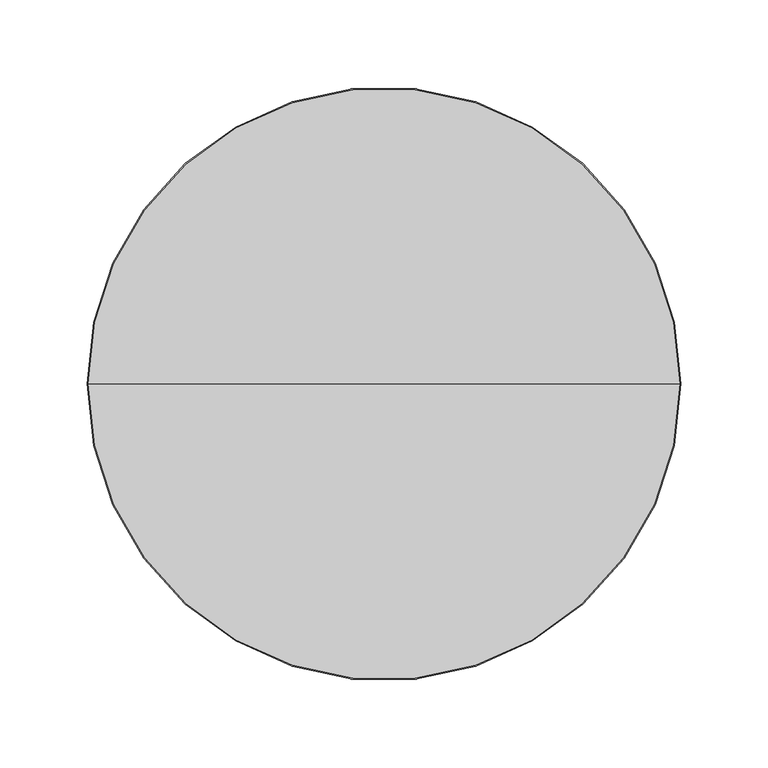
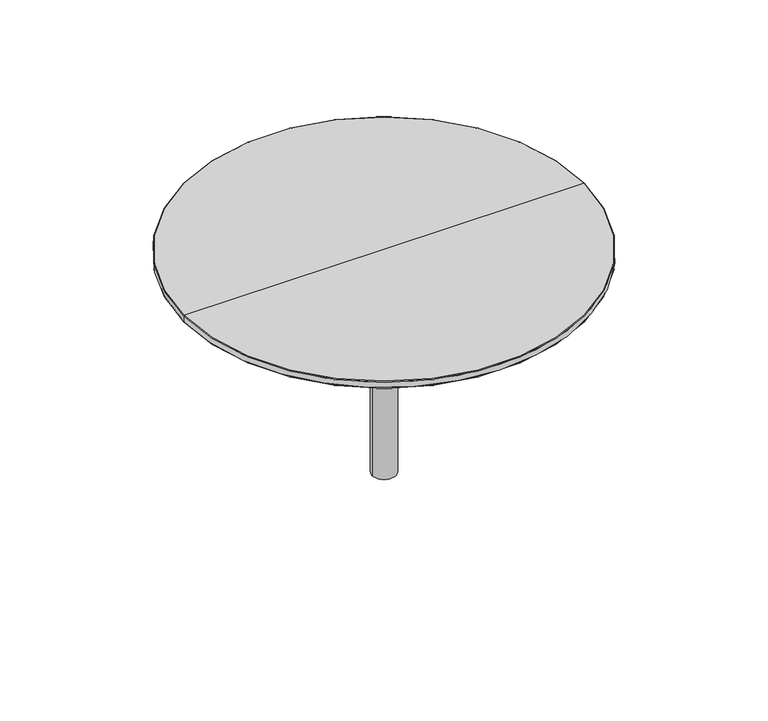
"""IFC4 building model written with IfcOpenShell, lengths in millimetres: furniture geometry, Couchette_1280 : Couchette_1280."""

import ifcopenshell
import ifcopenshell.guid

model = None  # the IFC model being written
_history = None  # IfcOwnerHistory: only IFC2X3 demands one
_inside = {}  # id of a spatial element -> (the spatial element, [elements in it])
_under = {}  # id of a project, library or spatial element -> (it, [spatial elements below it])
_declared = {}  # id of a project -> (the project, [libraries it declares])
_typed = {}  # id of a type object -> (the type object, [elements of that type])
_made_of = {}  # id of a material, layer set ... -> (it, [elements and type objects made of it])


def new_model(schema):
    """Start an empty IFC model of exactly this schema.

    Asked for "IFC4X3", IfcOpenShell would pick the latest addendum, in which some entities
    have other attributes; the version numbers below select the first issue.
    IFC2X3 requires an IfcOwnerHistory on every rooted entity: one is made here for all.
    """
    global model, _history
    if schema == "IFC4X3":
        model = ifcopenshell.file(schema_version=(4, 3, 0, 0))
    else:
        model = ifcopenshell.file(schema=schema)
    _inside.clear()
    _under.clear()
    _declared.clear()
    _typed.clear()
    _made_of.clear()
    _history = None
    if model.schema == "IFC2X3":
        org = make("IfcOrganization", Name="unknown")
        user = make(
            "IfcPersonAndOrganization",
            ThePerson=make("IfcPerson", FamilyName="unknown"),
            TheOrganization=org,
        )
        app = make(
            "IfcApplication",
            ApplicationDeveloper=org,
            Version="unknown",
            ApplicationFullName="unknown",
            ApplicationIdentifier="unknown",
        )
        _history = make(
            "IfcOwnerHistory",
            OwningUser=user,
            OwningApplication=app,
            ChangeAction="ADDED",
            CreationDate=0,
        )
    return model


def make(cls, **values):
    """One entity of the class cls with the attributes given. An attribute that is None is left unset."""
    return model.create_entity(
        cls, **{name: value for name, value in values.items() if value is not None}
    )


def rooted(cls, **values):
    """An entity with a GlobalId (a new one), such as an element, a storey or a relation."""
    return make(cls, GlobalId=ifcopenshell.guid.new(), OwnerHistory=_history, **values)


def si_unit(unit_type, name, prefix=None):
    """IfcSIUnit, for example si_unit("LENGTHUNIT", "METRE", prefix="MILLI")."""
    return make("IfcSIUnit", UnitType=unit_type, Prefix=prefix, Name=name)


def assignment(units):
    """IfcUnitAssignment: the units of a project."""
    return None if units is None else make("IfcUnitAssignment", Units=units)


def point(xyz):
    """IfcCartesianPoint."""
    return None if xyz is None else make("IfcCartesianPoint", Coordinates=xyz)


def direction(xyz):
    """IfcDirection."""
    return None if xyz is None else make("IfcDirection", DirectionRatios=xyz)


def frame(location, z_axis=None, x_axis=None):
    """IfcAxis2Placement3D, a coordinate frame: its origin and axes. An axis left out is left unset."""
    return make(
        "IfcAxis2Placement3D",
        Location=point(location),
        Axis=direction(z_axis),
        RefDirection=direction(x_axis),
    )


def frame_2d(location, x_axis=None):
    """IfcAxis2Placement2D, a coordinate frame in the plane: its origin and x axis."""
    return make(
        "IfcAxis2Placement2D", Location=point(location), RefDirection=direction(x_axis)
    )


def origin():
    """The frame at (0, 0, 0) with its axes left unset."""
    return frame((0.0, 0.0, 0.0))


def origin_with_axes():
    """The frame at (0, 0, 0) with the z axis (0, 0, 1) and the x axis (1, 0, 0) written out."""
    return frame((0.0, 0.0, 0.0), z_axis=(0.0, 0.0, 1.0), x_axis=(1.0, 0.0, 0.0))


def origin_2d():
    """The frame at (0, 0) in the plane with its x axis left unset."""
    return frame_2d((0.0, 0.0))


def place(relative_to, where):
    """IfcLocalPlacement: puts the frame where relative to a parent placement (None: the world)."""
    return make(
        "IfcLocalPlacement", PlacementRelTo=relative_to, RelativePlacement=where
    )


def context(
    kind, dimensions, precision=None, world=None, true_north=None, identifier=None
):
    """IfcGeometricRepresentationContext, for example the 3D "Model" context."""
    return make(
        "IfcGeometricRepresentationContext",
        ContextIdentifier=identifier,
        ContextType=kind,
        CoordinateSpaceDimension=dimensions,
        Precision=precision,
        WorldCoordinateSystem=world,
        TrueNorth=true_north,
    )


def project(units=None, contexts=None):
    """IfcProject with its units and contexts."""
    return rooted(
        "IfcProject",
        Name="project",
        RepresentationContexts=contexts,
        UnitsInContext=assignment(units),
    )


def spatial(cls, under=None, at=None, **own):
    """A site, building, storey or space (cls), placed at a placement, below another one or the project."""
    s = rooted(cls, ObjectPlacement=at, **own)
    if under is not None:
        _under.setdefault(under.id(), (under, []))[1].append(s)
    return s


def polyline(points):
    """IfcPolyline through the points."""
    return make("IfcPolyline", Points=[point(p) for p in points])


def circle_curve(where, radius):
    """IfcCircle in the frame where."""
    return make("IfcCircle", Position=where, Radius=radius)


def ellipse_curve(where, semi_axis1, semi_axis2):
    """IfcEllipse in the frame where."""
    return make(
        "IfcEllipse", Position=where, SemiAxis1=semi_axis1, SemiAxis2=semi_axis2
    )


def trimmed(basis, trim1, trim2, sense, master):
    """IfcTrimmedCurve: the piece of a basis curve between two trims."""
    return make(
        "IfcTrimmedCurve",
        BasisCurve=basis,
        Trim1=trim1,
        Trim2=trim2,
        SenseAgreement=sense,
        MasterRepresentation=master,
    )


def segment(curve, same_sense, transition):
    """IfcCompositeCurveSegment."""
    return make(
        "IfcCompositeCurveSegment",
        Transition=transition,
        SameSense=same_sense,
        ParentCurve=curve,
    )


def composite_curve(segments, self_intersect=None):
    """IfcCompositeCurve: segments joined end to end."""
    return make("IfcCompositeCurve", Segments=segments, SelfIntersect=self_intersect)


def outline(outer, holes=None, kind="AREA"):
    """IfcArbitraryClosedProfileDef: a profile drawn as a closed curve; with holes, ...WithVoids."""
    if holes is None:
        return make("IfcArbitraryClosedProfileDef", ProfileType=kind, OuterCurve=outer)
    return make(
        "IfcArbitraryProfileDefWithVoids",
        ProfileType=kind,
        OuterCurve=outer,
        InnerCurves=holes,
    )


def extrude(swept, where, along, depth):
    """IfcExtrudedAreaSolid: the profile swept, set in the frame where, extruded along a direction by depth."""
    return make(
        "IfcExtrudedAreaSolid",
        SweptArea=swept,
        Position=where,
        ExtrudedDirection=direction(along),
        Depth=depth,
    )


def shape(context_of_items, identifier, shape_type, items):
    """IfcShapeRepresentation: the items that make up one representation, for example the "Body"."""
    return make(
        "IfcShapeRepresentation",
        ContextOfItems=context_of_items,
        RepresentationIdentifier=identifier,
        RepresentationType=shape_type,
        Items=items,
    )


def source(mapping_origin, context_of_items, identifier, shape_type, items):
    """IfcRepresentationMap: a shape defined once, which mapped items show again and again."""
    return make(
        "IfcRepresentationMap",
        MappingOrigin=mapping_origin,
        MappedRepresentation=shape(context_of_items, identifier, shape_type, items),
    )


def transform(
    local_origin,
    x_axis=None,
    y_axis=None,
    z_axis=None,
    scale=None,
    scale2=None,
    scale3=None,
    uniform=True,
):
    """IfcCartesianTransformationOperator3D, or its non-uniform kind. x_axis, y_axis, z_axis: its Axis1, 2, 3."""
    if uniform:
        return make(
            "IfcCartesianTransformationOperator3D",
            Axis1=direction(x_axis),
            Axis2=direction(y_axis),
            LocalOrigin=point(local_origin),
            Scale=scale,
            Axis3=direction(z_axis),
        )
    return make(
        "IfcCartesianTransformationOperator3DnonUniform",
        Axis1=direction(x_axis),
        Axis2=direction(y_axis),
        LocalOrigin=point(local_origin),
        Scale=scale,
        Axis3=direction(z_axis),
        Scale2=scale2,
        Scale3=scale3,
    )


def mapped(mapping_source, mapping_target):
    """IfcMappedItem: shows the shape of a source again, moved by a transform."""
    return make(
        "IfcMappedItem", MappingSource=mapping_source, MappingTarget=mapping_target
    )


def made_of(thing, what):
    """Note that an element or type object is made of a material, layer set ...; save() writes the relation."""
    if what is not None:
        _made_of.setdefault(what.id(), (what, []))[1].append(thing)
    return thing


def element(
    cls,
    number,
    at=None,
    inside=None,
    cuts=None,
    type_object=None,
    material=None,
    context=None,
    identifier="Body",
    shape_type=None,
    held_by="IfcProductDefinitionShape",
    body=None,
    shapes=None,
    **own,
):
    """One element of the class cls, such as IfcWall. Its Tag is "e" and its number.

    at: its placement. inside: the storey or other place that contains it. cuts: it is an
    opening in that element (IfcRelVoidsElement). A single representation is given by context,
    identifier, shape_type and body (its items); several are given by shapes. held_by: the class
    of the entity that holds the representations. save() writes the other relations.
    """
    e = rooted(cls, Tag="e%d" % number, ObjectPlacement=at, **own)
    if body is not None:
        shapes = [shape(context, identifier, shape_type, body)]
    if shapes is not None:
        e.Representation = make(held_by, Representations=shapes)
    if inside is not None:
        _inside.setdefault(inside.id(), (inside, []))[1].append(e)
    if cuts is not None:
        rooted(
            "IfcRelVoidsElement", RelatingBuildingElement=cuts, RelatedOpeningElement=e
        )
    if type_object is not None:
        _typed.setdefault(type_object.id(), (type_object, []))[1].append(e)
    return made_of(e, material)


def aggregate(whole, parts):
    """IfcRelAggregates: a whole, such as a stair, and the parts it consists of."""
    return rooted("IfcRelAggregates", RelatingObject=whole, RelatedObjects=parts)


def save(model, path):
    """Write the relations noted so far, then the file.

    IfcRelAggregates (storeys below a building ...), IfcRelContainedInSpatialStructure (elements
    in a storey), IfcRelDefinesByType, IfcRelAssociatesMaterial and IfcRelDeclares: one each for
    every whole, place, type object, material and project.
    """
    for whole, parts in _under.values():
        aggregate(whole, parts)
    for where, things in _inside.values():
        rooted(
            "IfcRelContainedInSpatialStructure",
            RelatedElements=things,
            RelatingStructure=where,
        )
    for kind, things in _typed.values():
        rooted("IfcRelDefinesByType", RelatedObjects=things, RelatingType=kind)
    for what, things in _made_of.values():
        rooted("IfcRelAssociatesMaterial", RelatedObjects=things, RelatingMaterial=what)
    for by, libraries in _declared.values():
        rooted("IfcRelDeclares", RelatingContext=by, RelatedDefinitions=libraries)
    model.write(path)


def plane_surface(at):
    """IfcPlane: the flat surface through the origin of the frame at, square to its z axis."""
    return make("IfcPlane", Position=at)


def cylinder_surface(at, radius):
    """IfcCylindricalSurface: all points at the distance radius from the z axis of the frame at."""
    return make("IfcCylindricalSurface", Position=at, Radius=radius)


def revolved_surface(curve, axis_point, axis_direction):
    """IfcSurfaceOfRevolution: the curve turned about the line through axis_point along axis_direction."""
    return make(
        "IfcSurfaceOfRevolution",
        SweptCurve=make("IfcArbitraryOpenProfileDef", ProfileType="CURVE", Curve=curve),
        AxisPosition=make("IfcAxis1Placement", Location=point(axis_point), Axis=direction(axis_direction)),
    )


def advanced_brep(points, edges, surfaces, faces):
    """IfcAdvancedBrep: a solid bounded by faces that lie on surfaces and meet in shared edges.

    An edge is (start, end): straight between two places in points (the first is 0);
    or (start, end, curve); or (start, end, curve, False) where it runs against its curve.
    A face is (place in surfaces, loops), or (place, loops, False) where it looks against
    its surface's normal. A loop lists edges by number (the first is 1), with a minus sign
    where the edge is run from its end to its start. The first loop is the outer one.
    """
    corners = [point(p) for p in points]
    vertices = [make("IfcVertexPoint", VertexGeometry=c) for c in corners]
    made = []
    for start, end, *more in edges:
        made.append(
            make(
                "IfcEdgeCurve",
                EdgeStart=vertices[start],
                EdgeEnd=vertices[end],
                EdgeGeometry=more[0] if more else make("IfcPolyline", Points=[corners[start], corners[end]]),
                SameSense=more[1] if len(more) > 1 else True,
            )
        )
    hull = []
    for where, loops, *sense in faces:
        bounds = []
        for j, loop in enumerate(loops):
            ring = [make("IfcOrientedEdge", EdgeElement=made[abs(k) - 1], Orientation=k > 0) for k in loop]
            bounds.append(
                make(
                    "IfcFaceOuterBound" if j == 0 else "IfcFaceBound",
                    Bound=make("IfcEdgeLoop", EdgeList=ring),
                    Orientation=True,
                )
            )
        hull.append(make("IfcAdvancedFace", Bounds=bounds, FaceSurface=surfaces[where], SameSense=sense[0] if sense else True))
    return make("IfcAdvancedBrep", Outer=make("IfcClosedShell", CfsFaces=hull))


def furniture_37731700(model_context):
    return source(origin(), model_context, "Body", "SolidModel", [
        advanced_brep(
        [(0.0, 0.0, 169.999978), (-126.0087512, 0.0, 169.999978), (126.0087512, 0.0, 169.999978), (169.44, 0.0, 200.0), (-169.44, 0.0, 200.0), (0.0, 0.0, 200.0), (170.0, 0.0, 199.44), (-170.0, 0.0, 199.44), (170.0, 0.0, 194.6325474), (-170.0, 0.0, 194.6325474), (169.4858131, 0.0, 193.701514), (-169.4858131, 0.0, 193.701514), (150.4652548, 0.0, 181.7336369), (-150.4652548, 0.0, 181.7336369), (149.7336209, 0.0, 181.3152498), (-149.7336209, 0.0, 181.3152498), (129.4774075, 0.0, 170.8387349), (-129.4774075, 0.0, 170.8387349)],
        [
            (0, 1),
            (1, 2, circle_curve(frame((0.0, 0.0, 169.999978), z_axis=(0.0, 0.0, -1.0), x_axis=(-1.0, 0.0, 0.0)), 126.0087512)),
            (2, 0),
            (2, 1, circle_curve(frame((0.0, 0.0, 169.999978), z_axis=(0.0, 0.0, -1.0), x_axis=(-1.0, 0.0, 0.0)), 126.0087512)),
            (3, 4, circle_curve(frame((0.0, 0.0, 200.0), z_axis=(0.0, 0.0, 1.0), x_axis=(-1.0, 0.0, 0.0)), 169.44)),
            (4, 5),
            (5, 3),
            (4, 3, circle_curve(frame((0.0, 0.0, 200.0), z_axis=(0.0, 0.0, 1.0), x_axis=(-1.0, 0.0, 0.0)), 169.44)),
            (6, 7, circle_curve(frame((0.0, 0.0, 199.44), z_axis=(0.0, 0.0, 1.0), x_axis=(-1.0, 0.0, 0.0)), 170.0)),
            (7, 4, circle_curve(frame((-169.44, 0.0, 199.44), z_axis=(0.0, 1.0, 0.0), x_axis=(1.0, 0.0, 0.0)), 0.56)),
            (3, 6, circle_curve(frame((169.44, 0.0, 199.44), z_axis=(0.0, 1.0, 0.0), x_axis=(-1.0, 0.0, 0.0)), 0.56)),
            (7, 6, circle_curve(frame((0.0, 0.0, 199.44), z_axis=(0.0, 0.0, 1.0), x_axis=(-1.0, 0.0, 0.0)), 170.0)),
            (8, 9, circle_curve(frame((0.0, 0.0, 194.6325474), z_axis=(0.0, 0.0, 1.0), x_axis=(-1.0, 0.0, 0.0)), 170.0)),
            (9, 7),
            (6, 8),
            (9, 8, circle_curve(frame((0.0, 0.0, 194.6325474), z_axis=(0.0, 0.0, 1.0), x_axis=(-1.0, 0.0, 0.0)), 170.0)),
            (10, 11, circle_curve(frame((0.0, 0.0, 193.701514), z_axis=(0.0, 0.0, 1.0), x_axis=(-1.0, 0.0, 0.0)), 169.4858131)),
            (11, 9, circle_curve(frame((-168.9, 0.0, 194.6325474), z_axis=(0.0, 1.0, 0.0), x_axis=(1.0, 0.0, 0.0)), 1.1)),
            (8, 10, circle_curve(frame((168.9, 0.0, 194.6325474), z_axis=(0.0, 1.0, 0.0), x_axis=(-1.0, 0.0, 0.0)), 1.1)),
            (11, 10, circle_curve(frame((0.0, 0.0, 193.701514), z_axis=(0.0, 0.0, 1.0), x_axis=(-1.0, 0.0, 0.0)), 169.4858131)),
            (12, 13, circle_curve(frame((0.0, 0.0, 181.7336369), z_axis=(0.0, 0.0, 1.0), x_axis=(-1.0, 0.0, 0.0)), 150.4652548)),
            (13, 11),
            (10, 12),
            (13, 12, circle_curve(frame((0.0, 0.0, 181.7336369), z_axis=(0.0, 0.0, 1.0), x_axis=(-1.0, 0.0, 0.0)), 150.4652548)),
            (14, 15, circle_curve(frame((0.0, 0.0, 181.3152498), z_axis=(0.0, 0.0, 1.0), x_axis=(-1.0, 0.0, 0.0)), 149.7336209)),
            (15, 13, circle_curve(frame((-145.1396812, 0.0, 190.197576), z_axis=(0.0, 1.0, 0.0), x_axis=(1.0, 0.0, 0.0)), 10.0)),
            (12, 14, circle_curve(frame((145.1396812, 0.0, 190.197576), z_axis=(0.0, 1.0, 0.0), x_axis=(-1.0, 0.0, 0.0)), 10.0)),
            (15, 14, circle_curve(frame((0.0, 0.0, 181.3152498), z_axis=(0.0, 0.0, 1.0), x_axis=(-1.0, 0.0, 0.0)), 149.7336209)),
            (16, 17, circle_curve(frame((0.0, 0.0, 170.8387349), z_axis=(0.0, 0.0, 1.0), x_axis=(-1.0, 0.0, 0.0)), 129.4774075)),
            (17, 15),
            (14, 16),
            (17, 16, circle_curve(frame((0.0, 0.0, 170.8387349), z_axis=(0.0, 0.0, 1.0), x_axis=(-1.0, 0.0, 0.0)), 129.4774075)),
            (1, 17, circle_curve(frame((-126.0297702, 0.0, 177.5046995), z_axis=(0.0, 1.0, 0.0), x_axis=(1.0, 0.0, 0.0)), 7.504751)),
            (16, 2, circle_curve(frame((126.0297702, 0.0, 177.5046995), z_axis=(0.0, 1.0, 0.0), x_axis=(-1.0, 0.0, 0.0)), 7.504751)),
        ],
        [
            plane_surface(frame((0.0, 0.0, 169.999978), z_axis=(0.0, 0.0, -1.0), x_axis=(-1.0, 0.0, 0.0))),
            plane_surface(frame((0.0, 0.0, 200.0), z_axis=(0.0, 0.0, 1.0), x_axis=(-1.0, 0.0, 0.0))),
            revolved_surface(trimmed(ellipse_curve(frame((-169.44, 0.0, 199.44), z_axis=(0.0, -1.0, 0.0), x_axis=(1.0, 0.0, 0.0)), 0.56, 0.56), [point((-169.44, 0.0, 200.0))], [point((-170.0, 0.0, 199.44))], True, "CARTESIAN"), (0.0, 0.0, 169.999978), (0.0, 0.0, -1.0)),
            cylinder_surface(frame((0.0, 0.0, 169.999978), z_axis=(0.0, 0.0, -1.0), x_axis=(-1.0, 0.0, 0.0)), 170.0),
            revolved_surface(trimmed(ellipse_curve(frame((-168.9, 0.0, 194.6325474), z_axis=(0.0, -1.0, 0.0), x_axis=(1.0, 0.0, 0.0)), 1.1, 1.1), [point((-170.0, 0.0, 194.6325474))], [point((-169.4858131, 0.0, 193.701514))], True, "CARTESIAN"), (0.0, 0.0, 169.999978), (0.0, 0.0, -1.0)),
            revolved_surface(polyline([(-169.4858131, 0.0, 193.701514), (-150.4652548, 0.0, 181.7336369)]), (0.0, 0.0, 169.999978), (0.0, 0.0, -1.0)),
            revolved_surface(trimmed(ellipse_curve(frame((-145.1396812, 0.0, 190.197576), z_axis=(0.0, -1.0, 0.0), x_axis=(1.0, 0.0, 0.0)), 10.0, 10.0), [point((-150.4652548, 0.0, 181.7336369))], [point((-149.7336209, 0.0, 181.3152498))], True, "CARTESIAN"), (0.0, 0.0, 169.999978), (0.0, 0.0, -1.0)),
            revolved_surface(polyline([(-149.7336209, 0.0, 181.3152498), (-129.4774075, 0.0, 170.8387349)]), (0.0, 0.0, 169.999978), (0.0, 0.0, -1.0)),
            revolved_surface(trimmed(ellipse_curve(frame((-126.0297702, 0.0, 177.5046995), z_axis=(0.0, -1.0, 0.0), x_axis=(1.0, 0.0, 0.0)), 7.504751, 7.504751), [point((-129.4774075, 0.0, 170.8387349))], [point((-126.0087512, 0.0, 169.999978))], True, "CARTESIAN"), (0.0, 0.0, 169.999978), (0.0, 0.0, -1.0)),
        ],
        [
            (0, [[1, 2, 3]]),
            (0, [[-3, 4, -1]]),
            (1, [[5, 6, 7]]),
            (1, [[8, -7, -6]]),
            (2, [[9, 10, -5, 11]]),
            (2, [[12, -11, -8, -10]]),
            (3, [[13, 14, -9, 15]]),
            (3, [[16, -15, -12, -14]]),
            (4, [[17, 18, -13, 19]]),
            (4, [[20, -19, -16, -18]]),
            (5, [[21, 22, -17, 23]]),
            (5, [[24, -23, -20, -22]]),
            (6, [[25, 26, -21, 27]]),
            (6, [[28, -27, -24, -26]]),
            (7, [[29, 30, -25, 31]]),
            (7, [[32, -31, -28, -30]]),
            (8, [[-2, 33, -29, 34]]),
            (8, [[-4, -34, -32, -33]]),
        ],
    ),
        extrude(outline(composite_curve([segment(trimmed(circle_curve(origin_2d(), 10.0), [point((10.0, 0.0))], [point((-10.0, 0.0))], False, "CARTESIAN"), True, "CONTINUOUS"), segment(trimmed(circle_curve(origin_2d(), 10.0), [point((-10.0, 0.0))], [point((10.0, 0.0))], False, "CARTESIAN"), True, "CONTINUOUS")], self_intersect=False)), origin_with_axes(), (0.0, 0.0, 1.0), 170.0),
    ])


if __name__ == "__main__":
    model = new_model("IFC4")
    model_context = context("Model", 3, world=origin())
    ifc_project = project(units=[si_unit("LENGTHUNIT", "METRE", prefix="MILLI")], contexts=[model_context])
    site = spatial("IfcSite", under=ifc_project)
    building = spatial("IfcBuilding", under=site)
    placement = place(None, origin())
    furniture_shape = furniture_37731700(model_context)
    element("IfcFurniture", 1, ObjectType="Couchette_1280 : Couchette_1280", at=placement, inside=building, context=model_context, shape_type="MappedRepresentation", body=[
        mapped(furniture_shape, transform((0.0, 0.0, 0.0), x_axis=(1.0, 0.0, 0.0), y_axis=(0.0, 1.0, 0.0), z_axis=(0.0, 0.0, 1.0))),
    ])
    save(model, "model.ifc")
